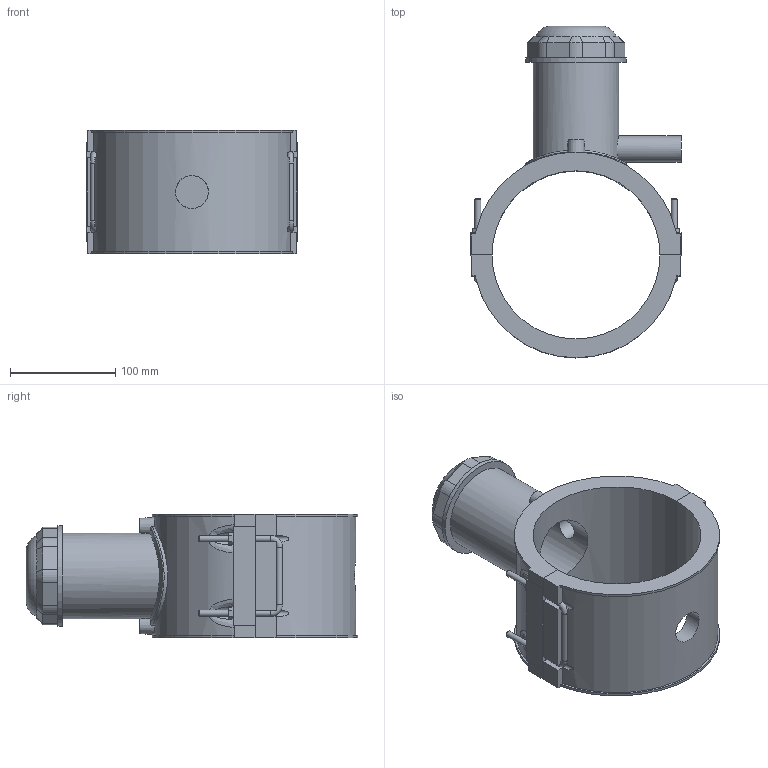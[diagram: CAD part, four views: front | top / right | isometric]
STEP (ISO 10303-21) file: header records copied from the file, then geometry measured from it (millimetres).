
FILE_DESCRIPTION(/* description */ ('PLASSON TAPPING SADDLE 160x25'),/* implementation_level */ '2;1');
FILE_NAME(/* name */ 'C:\Dropbox\KIMPROJECTS-Inventor\99-16-3568-Processing\ElectroFusion Fittings\24.01.19\496304\496304160025.ipt.stp',/* time_stamp */ '2019-01-24T12:42:49+02:00',/* author */ ('KIM'),/* organization */ (''),/* preprocessor_version */ 'ST-DEVELOPER v15.6',/* originating_system */ 'Autodesk Inventor 2015',/* authorisation */ '');
FILE_SCHEMA (('AUTOMOTIVE_DESIGN { 1 0 10303 214 3 1 1 }'));
Length unit declared in the file: millimetre
Products named in the file (1): 496304160025
Bounding box: 201 x 315.92 x 118 mm (x, y, z)
Volume: 1390150.2 mm3; surface area: 238246.8 mm2
Topology: 1 solids, 1 shells, 207 faces, 545 edges, 354 vertices
Faces by surface type: plane 127, cylinder 55, cone 14, bspline 6, torus 5
Full cylindrical faces by diameter (mm): 4 x2, 6 x8, 10 x2, 20 x1, 25 x1, 31.36 x1, 67.2 x1, 81.6 x1, 96 x1
Entity records: 7840 total; most frequent: CARTESIAN_POINT 2872, ORIENTED_EDGE 1062, DIRECTION 939, EDGE_CURVE 523, VERTEX_POINT 351, AXIS2_PLACEMENT_3D 319, LINE 301, VECTOR 301
